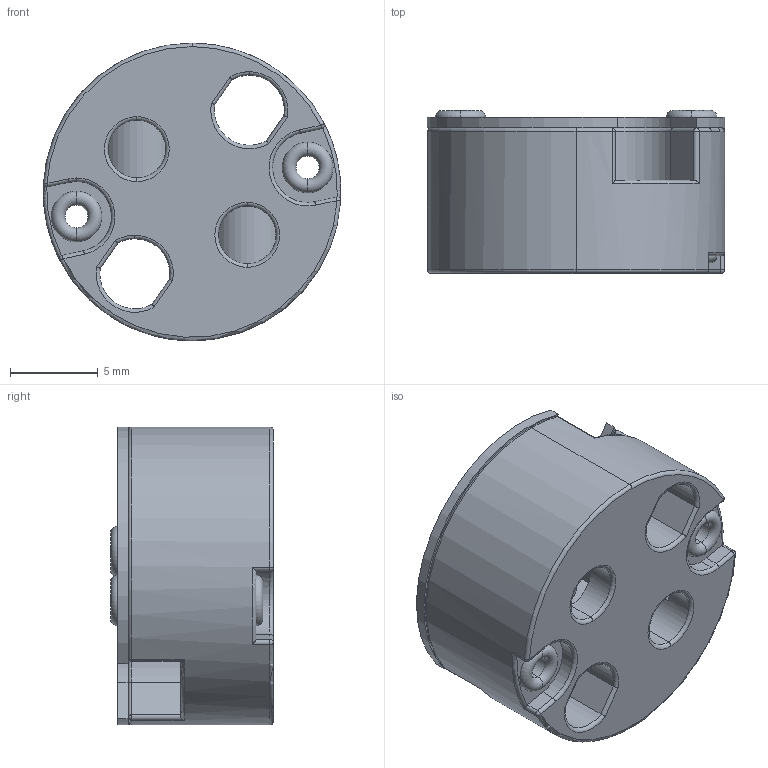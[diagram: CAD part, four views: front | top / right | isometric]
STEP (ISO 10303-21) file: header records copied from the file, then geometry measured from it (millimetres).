
FILE_DESCRIPTION (( 'STEP AP203' ), '1' );
FILE_NAME ('3D - HSW687 Außenkontur.STEP', '2019-08-08T11:34:55', ( '' ), ( '' ), 'SwSTEP 2.0', 'SolidWorks 2013', '' );
FILE_SCHEMA (( 'CONFIG_CONTROL_DESIGN' ));
Length unit declared in the file: millimetre
Products named in the file (1): 3D - HSW687 Außenkontur
Bounding box: 16.99 x 9.3 x 17 mm (x, y, z)
Surface area: 1650 mm2 (no closed solid volume)
Topology: 0 solids, 12 shells, 143 faces, 423 edges, 281 vertices
Faces by surface type: cylinder 58, plane 39, torus 38, sphere 8
Entity records: 4910 total; most frequent: CARTESIAN_POINT 997, DIRECTION 880, ORIENTED_EDGE 706, EDGE_CURVE 415, AXIS2_PLACEMENT_3D 352, VERTEX_POINT 281, CIRCLE 208, LINE 176
